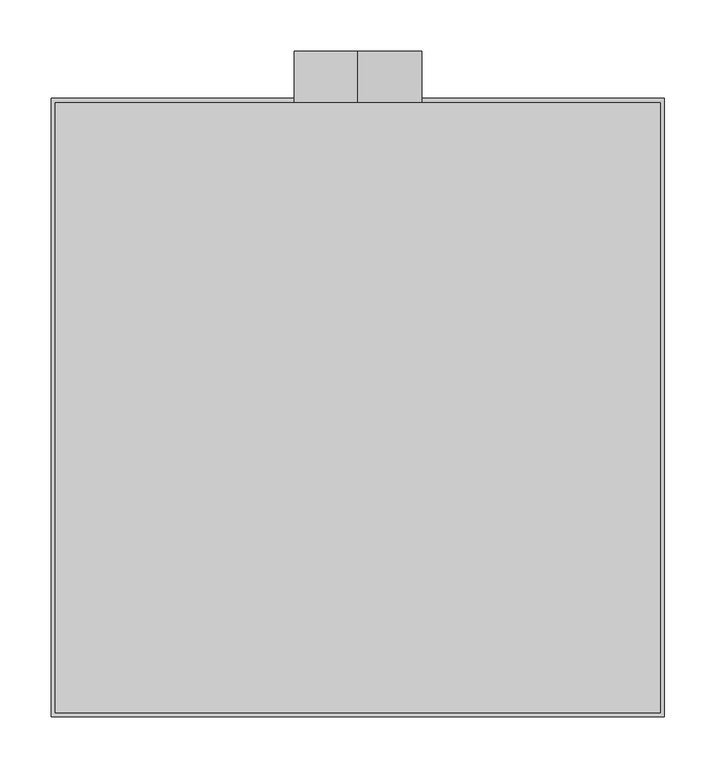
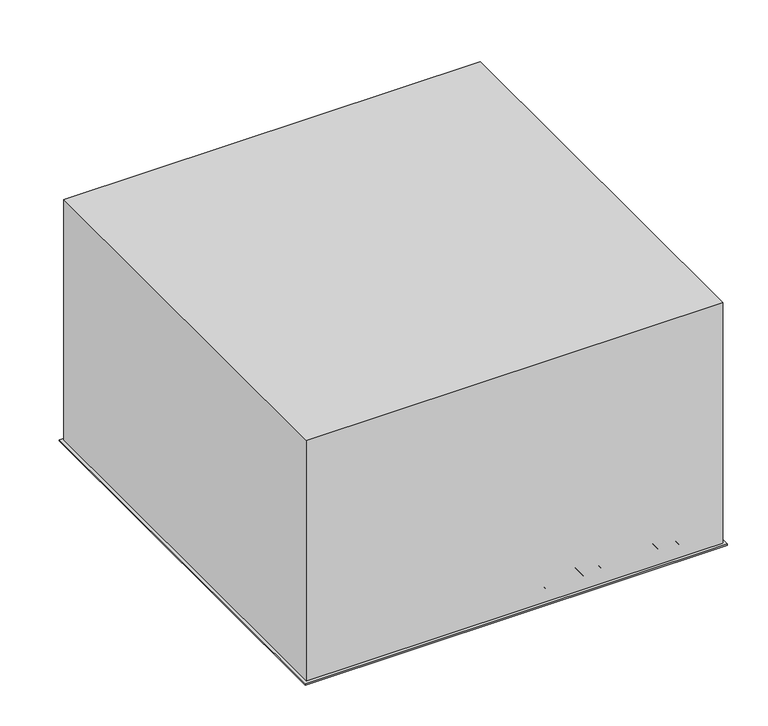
"""IFC4 building model written with IfcOpenShell, lengths in millimetres: air terminal geometry, EOL - plafonnier : EOL-P2-125-600x600."""

from ifc_helpers import new_model, si_unit, point, frame, frame_2d, origin, place, context, project, spatial, polyline, circle_curve, trimmed, segment, composite_curve, outline, extrude, source, transform, mapped, element, save
from ifc_brep_helpers import plane_surface, revolved_surface, advanced_brep


def air_terminal_11f47abf(model_context):
    return source(origin(), model_context, "Body", "SolidModel", [
        extrude(outline(composite_curve([segment(polyline([(1.0, 69.6874144), (2.0025269, 69.6874144)]), True, "CONTINUOUS"), segment(trimmed(circle_curve(frame_2d((31.0266548, 71.7874144)), 29.1), [point((2.0025269, 69.6874144))], [point((26.77286, 43.0))], True, "CARTESIAN"), True, "CONTINUOUS"), segment(polyline([(26.77286, 43.0), (35.0, 43.0), (35.0, 42.0), (26.7, 42.0)]), True, "CONTINUOUS"), segment(trimmed(circle_curve(frame_2d((31.0266548, 71.7874144)), 30.1), [point((26.7, 42.0))], [point((1.0, 69.6874144))], False, "CARTESIAN"), True, "CONTINUOUS")], self_intersect=False)), frame((0.0, 6.1874144, 0.0), z_axis=(0.0, 1.0, 0.0), x_axis=(0.0, 0.0, 1.0)), (0.0, 0.0, 1.0), 572.6251712),
        extrude(outline(composite_curve([segment(polyline([(1.0, 96.6874144), (2.0025269, 96.6874144)]), True, "CONTINUOUS"), segment(trimmed(circle_curve(frame_2d((31.0266548, 98.7874144)), 29.1), [point((2.0025269, 96.6874144))], [point((26.77286, 70.0))], True, "CARTESIAN"), True, "CONTINUOUS"), segment(polyline([(26.77286, 70.0), (35.0, 70.0), (35.0, 69.0), (26.7, 69.0)]), True, "CONTINUOUS"), segment(trimmed(circle_curve(frame_2d((31.0266548, 98.7874144)), 30.1), [point((26.7, 69.0))], [point((1.0, 96.6874144))], False, "CARTESIAN"), True, "CONTINUOUS")], self_intersect=False)), frame((0.0, 6.1874144, 0.0), z_axis=(0.0, 1.0, 0.0), x_axis=(0.0, 0.0, 1.0)), (0.0, 0.0, 1.0), 572.6251712),
        extrude(outline(composite_curve([segment(polyline([(1.0, 123.6874144), (2.0025269, 123.6874144)]), True, "CONTINUOUS"), segment(trimmed(circle_curve(frame_2d((31.0266548, 125.7874144)), 29.1), [point((2.0025269, 123.6874144))], [point((26.77286, 97.0))], True, "CARTESIAN"), True, "CONTINUOUS"), segment(polyline([(26.77286, 97.0), (35.0, 97.0), (35.0, 96.0), (26.7, 96.0)]), True, "CONTINUOUS"), segment(trimmed(circle_curve(frame_2d((31.0266548, 125.7874144)), 30.1), [point((26.7, 96.0))], [point((1.0, 123.6874144))], False, "CARTESIAN"), True, "CONTINUOUS")], self_intersect=False)), frame((0.0, 6.1874144, 0.0), z_axis=(0.0, 1.0, 0.0), x_axis=(0.0, 0.0, 1.0)), (0.0, 0.0, 1.0), 572.6251712),
        extrude(outline(composite_curve([segment(polyline([(1.0, 150.6874144), (2.0025269, 150.6874144)]), True, "CONTINUOUS"), segment(trimmed(circle_curve(frame_2d((31.0266548, 152.7874144)), 29.1), [point((2.0025269, 150.6874144))], [point((26.77286, 124.0))], True, "CARTESIAN"), True, "CONTINUOUS"), segment(polyline([(26.77286, 124.0), (35.0, 124.0), (35.0, 123.0), (26.7, 123.0)]), True, "CONTINUOUS"), segment(trimmed(circle_curve(frame_2d((31.0266548, 152.7874144)), 30.1), [point((26.7, 123.0))], [point((1.0, 150.6874144))], False, "CARTESIAN"), True, "CONTINUOUS")], self_intersect=False)), frame((0.0, 6.1874144, 0.0), z_axis=(0.0, 1.0, 0.0), x_axis=(0.0, 0.0, 1.0)), (0.0, 0.0, 1.0), 572.6251712),
        extrude(outline(composite_curve([segment(polyline([(1.0, 177.6874144), (2.0025269, 177.6874144)]), True, "CONTINUOUS"), segment(trimmed(circle_curve(frame_2d((31.0266548, 179.7874144)), 29.1), [point((2.0025269, 177.6874144))], [point((26.77286, 151.0))], True, "CARTESIAN"), True, "CONTINUOUS"), segment(polyline([(26.77286, 151.0), (35.0, 151.0), (35.0, 150.0), (26.7, 150.0)]), True, "CONTINUOUS"), segment(trimmed(circle_curve(frame_2d((31.0266548, 179.7874144)), 30.1), [point((26.7, 150.0))], [point((1.0, 177.6874144))], False, "CARTESIAN"), True, "CONTINUOUS")], self_intersect=False)), frame((0.0, 6.1874144, 0.0), z_axis=(0.0, 1.0, 0.0), x_axis=(0.0, 0.0, 1.0)), (0.0, 0.0, 1.0), 572.6251712),
        extrude(outline(composite_curve([segment(polyline([(1.0, 204.6874144), (2.0025269, 204.6874144)]), True, "CONTINUOUS"), segment(trimmed(circle_curve(frame_2d((31.0266548, 206.7874144)), 29.1), [point((2.0025269, 204.6874144))], [point((26.77286, 178.0))], True, "CARTESIAN"), True, "CONTINUOUS"), segment(polyline([(26.77286, 178.0), (35.0, 178.0), (35.0, 177.0), (26.7, 177.0)]), True, "CONTINUOUS"), segment(trimmed(circle_curve(frame_2d((31.0266548, 206.7874144)), 30.1), [point((26.7, 177.0))], [point((1.0, 204.6874144))], False, "CARTESIAN"), True, "CONTINUOUS")], self_intersect=False)), frame((0.0, 6.1874144, 0.0), z_axis=(0.0, 1.0, 0.0), x_axis=(0.0, 0.0, 1.0)), (0.0, 0.0, 1.0), 572.6251712),
        extrude(outline(composite_curve([segment(polyline([(1.0, 231.6874144), (2.0025269, 231.6874144)]), True, "CONTINUOUS"), segment(trimmed(circle_curve(frame_2d((31.0266548, 233.7874144)), 29.1), [point((2.0025269, 231.6874144))], [point((26.77286, 205.0))], True, "CARTESIAN"), True, "CONTINUOUS"), segment(polyline([(26.77286, 205.0), (35.0, 205.0), (35.0, 204.0), (26.7, 204.0)]), True, "CONTINUOUS"), segment(trimmed(circle_curve(frame_2d((31.0266548, 233.7874144)), 30.1), [point((26.7, 204.0))], [point((1.0, 231.6874144))], False, "CARTESIAN"), True, "CONTINUOUS")], self_intersect=False)), frame((0.0, 6.1874144, 0.0), z_axis=(0.0, 1.0, 0.0), x_axis=(0.0, 0.0, 1.0)), (0.0, 0.0, 1.0), 572.6251712),
        extrude(outline(composite_curve([segment(polyline([(1.0, 258.6874144), (2.0025269, 258.6874144)]), True, "CONTINUOUS"), segment(trimmed(circle_curve(frame_2d((31.0266548, 260.7874144)), 29.1), [point((2.0025269, 258.6874144))], [point((26.77286, 232.0))], True, "CARTESIAN"), True, "CONTINUOUS"), segment(polyline([(26.77286, 232.0), (35.0, 232.0), (35.0, 231.0), (26.7, 231.0)]), True, "CONTINUOUS"), segment(trimmed(circle_curve(frame_2d((31.0266548, 260.7874144)), 30.1), [point((26.7, 231.0))], [point((1.0, 258.6874144))], False, "CARTESIAN"), True, "CONTINUOUS")], self_intersect=False)), frame((0.0, 6.1874144, 0.0), z_axis=(0.0, 1.0, 0.0), x_axis=(0.0, 0.0, 1.0)), (0.0, 0.0, 1.0), 572.6251712),
        extrude(outline(composite_curve([segment(polyline([(1.0, 285.6874144), (2.0025269, 285.6874144)]), True, "CONTINUOUS"), segment(trimmed(circle_curve(frame_2d((31.0266548, 287.7874144)), 29.1), [point((2.0025269, 285.6874144))], [point((26.77286, 259.0))], True, "CARTESIAN"), True, "CONTINUOUS"), segment(polyline([(26.77286, 259.0), (35.0, 259.0), (35.0, 258.0), (26.7, 258.0)]), True, "CONTINUOUS"), segment(trimmed(circle_curve(frame_2d((31.0266548, 287.7874144)), 30.1), [point((26.7, 258.0))], [point((1.0, 285.6874144))], False, "CARTESIAN"), True, "CONTINUOUS")], self_intersect=False)), frame((0.0, 6.1874144, 0.0), z_axis=(0.0, 1.0, 0.0), x_axis=(0.0, 0.0, 1.0)), (0.0, 0.0, 1.0), 572.6251712),
        extrude(outline(composite_curve([segment(trimmed(circle_curve(frame_2d((31.0266548, -71.7874144)), 30.1), [point((1.0, -69.6874144))], [point((26.7, -42.0))], False, "CARTESIAN"), True, "CONTINUOUS"), segment(polyline([(26.7, -42.0), (35.0, -42.0), (35.0, -43.0), (26.77286, -43.0)]), True, "CONTINUOUS"), segment(trimmed(circle_curve(frame_2d((31.0266548, -71.7874144)), 29.1), [point((26.77286, -43.0))], [point((2.0025269, -69.6874144))], True, "CARTESIAN"), True, "CONTINUOUS"), segment(polyline([(2.0025269, -69.6874144), (1.0, -69.6874144)]), True, "CONTINUOUS")], self_intersect=False)), frame((0.0, 6.1874144, 0.0), z_axis=(0.0, 1.0, 0.0), x_axis=(0.0, 0.0, 1.0)), (0.0, 0.0, 1.0), 572.6251712),
        extrude(outline(composite_curve([segment(trimmed(circle_curve(frame_2d((31.0266548, -98.7874144)), 30.1), [point((1.0, -96.6874144))], [point((26.7, -69.0))], False, "CARTESIAN"), True, "CONTINUOUS"), segment(polyline([(26.7, -69.0), (35.0, -69.0), (35.0, -70.0), (26.77286, -70.0)]), True, "CONTINUOUS"), segment(trimmed(circle_curve(frame_2d((31.0266548, -98.7874144)), 29.1), [point((26.77286, -70.0))], [point((2.0025269, -96.6874144))], True, "CARTESIAN"), True, "CONTINUOUS"), segment(polyline([(2.0025269, -96.6874144), (1.0, -96.6874144)]), True, "CONTINUOUS")], self_intersect=False)), frame((0.0, 6.1874144, 0.0), z_axis=(0.0, 1.0, 0.0), x_axis=(0.0, 0.0, 1.0)), (0.0, 0.0, 1.0), 572.6251712),
        extrude(outline(composite_curve([segment(trimmed(circle_curve(frame_2d((31.0266548, -125.7874144)), 30.1), [point((1.0, -123.6874144))], [point((26.7, -96.0))], False, "CARTESIAN"), True, "CONTINUOUS"), segment(polyline([(26.7, -96.0), (35.0, -96.0), (35.0, -97.0), (26.77286, -97.0)]), True, "CONTINUOUS"), segment(trimmed(circle_curve(frame_2d((31.0266548, -125.7874144)), 29.1), [point((26.77286, -97.0))], [point((2.0025269, -123.6874144))], True, "CARTESIAN"), True, "CONTINUOUS"), segment(polyline([(2.0025269, -123.6874144), (1.0, -123.6874144)]), True, "CONTINUOUS")], self_intersect=False)), frame((0.0, 6.1874144, 0.0), z_axis=(0.0, 1.0, 0.0), x_axis=(0.0, 0.0, 1.0)), (0.0, 0.0, 1.0), 572.6251712),
        extrude(outline(composite_curve([segment(trimmed(circle_curve(frame_2d((31.0266548, -152.7874144)), 30.1), [point((1.0, -150.6874144))], [point((26.7, -123.0))], False, "CARTESIAN"), True, "CONTINUOUS"), segment(polyline([(26.7, -123.0), (35.0, -123.0), (35.0, -124.0), (26.77286, -124.0)]), True, "CONTINUOUS"), segment(trimmed(circle_curve(frame_2d((31.0266548, -152.7874144)), 29.1), [point((26.77286, -124.0))], [point((2.0025269, -150.6874144))], True, "CARTESIAN"), True, "CONTINUOUS"), segment(polyline([(2.0025269, -150.6874144), (1.0, -150.6874144)]), True, "CONTINUOUS")], self_intersect=False)), frame((0.0, 6.1874144, 0.0), z_axis=(0.0, 1.0, 0.0), x_axis=(0.0, 0.0, 1.0)), (0.0, 0.0, 1.0), 572.6251712),
        extrude(outline(composite_curve([segment(trimmed(circle_curve(frame_2d((31.0266548, -179.7874144)), 30.1), [point((1.0, -177.6874144))], [point((26.7, -150.0))], False, "CARTESIAN"), True, "CONTINUOUS"), segment(polyline([(26.7, -150.0), (35.0, -150.0), (35.0, -151.0), (26.77286, -151.0)]), True, "CONTINUOUS"), segment(trimmed(circle_curve(frame_2d((31.0266548, -179.7874144)), 29.1), [point((26.77286, -151.0))], [point((2.0025269, -177.6874144))], True, "CARTESIAN"), True, "CONTINUOUS"), segment(polyline([(2.0025269, -177.6874144), (1.0, -177.6874144)]), True, "CONTINUOUS")], self_intersect=False)), frame((0.0, 6.1874144, 0.0), z_axis=(0.0, 1.0, 0.0), x_axis=(0.0, 0.0, 1.0)), (0.0, 0.0, 1.0), 572.6251712),
        extrude(outline(composite_curve([segment(trimmed(circle_curve(frame_2d((31.0266548, -206.7874144)), 30.1), [point((1.0, -204.6874144))], [point((26.7, -177.0))], False, "CARTESIAN"), True, "CONTINUOUS"), segment(polyline([(26.7, -177.0), (35.0, -177.0), (35.0, -178.0), (26.77286, -178.0)]), True, "CONTINUOUS"), segment(trimmed(circle_curve(frame_2d((31.0266548, -206.7874144)), 29.1), [point((26.77286, -178.0))], [point((2.0025269, -204.6874144))], True, "CARTESIAN"), True, "CONTINUOUS"), segment(polyline([(2.0025269, -204.6874144), (1.0, -204.6874144)]), True, "CONTINUOUS")], self_intersect=False)), frame((0.0, 6.1874144, 0.0), z_axis=(0.0, 1.0, 0.0), x_axis=(0.0, 0.0, 1.0)), (0.0, 0.0, 1.0), 572.6251712),
        extrude(outline(composite_curve([segment(trimmed(circle_curve(frame_2d((31.0266548, -233.7874144)), 30.1), [point((1.0, -231.6874144))], [point((26.7, -204.0))], False, "CARTESIAN"), True, "CONTINUOUS"), segment(polyline([(26.7, -204.0), (35.0, -204.0), (35.0, -205.0), (26.77286, -205.0)]), True, "CONTINUOUS"), segment(trimmed(circle_curve(frame_2d((31.0266548, -233.7874144)), 29.1), [point((26.77286, -205.0))], [point((2.0025269, -231.6874144))], True, "CARTESIAN"), True, "CONTINUOUS"), segment(polyline([(2.0025269, -231.6874144), (1.0, -231.6874144)]), True, "CONTINUOUS")], self_intersect=False)), frame((0.0, 6.1874144, 0.0), z_axis=(0.0, 1.0, 0.0), x_axis=(0.0, 0.0, 1.0)), (0.0, 0.0, 1.0), 572.6251712),
        extrude(outline(composite_curve([segment(trimmed(circle_curve(frame_2d((31.0266548, -260.7874144)), 30.1), [point((1.0, -258.6874144))], [point((26.7, -231.0))], False, "CARTESIAN"), True, "CONTINUOUS"), segment(polyline([(26.7, -231.0), (35.0, -231.0), (35.0, -232.0), (26.77286, -232.0)]), True, "CONTINUOUS"), segment(trimmed(circle_curve(frame_2d((31.0266548, -260.7874144)), 29.1), [point((26.77286, -232.0))], [point((2.0025269, -258.6874144))], True, "CARTESIAN"), True, "CONTINUOUS"), segment(polyline([(2.0025269, -258.6874144), (1.0, -258.6874144)]), True, "CONTINUOUS")], self_intersect=False)), frame((0.0, 6.1874144, 0.0), z_axis=(0.0, 1.0, 0.0), x_axis=(0.0, 0.0, 1.0)), (0.0, 0.0, 1.0), 572.6251712),
        extrude(outline(polyline([(42.0, 578.8125856), (42.0, 6.1874144), (-42.0, 6.1874144), (-42.0, 578.8125856), (42.0, 578.8125856)])), frame((0.0, 0.0, 1.0), z_axis=(0.0, 0.0, 1.0), x_axis=(1.0, 0.0, 0.0)), (0.0, 0.0, 1.0), 1.0025269),
        extrude(outline(composite_curve([segment(trimmed(circle_curve(frame_2d((31.0266548, -287.7874144)), 30.1), [point((1.0, -285.6874144))], [point((26.7, -258.0))], False, "CARTESIAN"), True, "CONTINUOUS"), segment(polyline([(26.7, -258.0), (35.0, -258.0), (35.0, -259.0), (26.77286, -259.0)]), True, "CONTINUOUS"), segment(trimmed(circle_curve(frame_2d((31.0266548, -287.7874144)), 29.1), [point((26.77286, -259.0))], [point((2.0025269, -285.6874144))], True, "CARTESIAN"), True, "CONTINUOUS"), segment(polyline([(2.0025269, -285.6874144), (1.0, -285.6874144)]), True, "CONTINUOUS")], self_intersect=False)), frame((0.0, 6.1874144, 0.0), z_axis=(0.0, 1.0, 0.0), x_axis=(0.0, 0.0, 1.0)), (0.0, 0.0, 1.0), 572.6251712),
        extrude(outline(polyline([(299.0, 594.0), (299.0, -9.0), (-299.0, -9.0), (-299.0, 594.0), (299.0, 594.0)]), holes=[polyline([(290.0, 585.0), (-290.0, 585.0), (-290.0, 0.0), (290.0, 0.0), (290.0, 585.0)])]), frame((0.0, 0.0, -2.0), z_axis=(0.0, 0.0, 1.0), x_axis=(1.0, 0.0, 0.0)), (0.0, 0.0, 1.0), 2.0),
        extrude(outline(composite_curve([segment(trimmed(circle_curve(frame_2d((241.0, 0.0)), 62.5), [point((178.5, 0.0))], [point((303.5, 0.0))], False, "CARTESIAN"), True, "CONTINUOUS"), segment(trimmed(circle_curve(frame_2d((241.0, 0.0)), 62.5), [point((303.5, 0.0))], [point((178.5, 0.0))], False, "CARTESIAN"), True, "CONTINUOUS")], self_intersect=False), holes=[composite_curve([segment(trimmed(circle_curve(frame_2d((241.0, 0.0)), 61.5), [point((241.0, 61.5))], [point((241.0, -61.5))], True, "CARTESIAN"), True, "CONTINUOUS"), segment(trimmed(circle_curve(frame_2d((241.0, 0.0)), 61.5), [point((241.0, -61.5))], [point((241.0, 61.5))], True, "CARTESIAN"), True, "CONTINUOUS")], self_intersect=False)]), frame((0.0, 590.0, 0.0), z_axis=(0.0, 1.0, 0.0), x_axis=(0.0, 0.0, 1.0)), (0.0, 0.0, 1.0), 50.0),
        advanced_brep(
        [(295.0, 590.0, 361.0), (-295.0, 590.0, 361.0), (-295.0, -5.0, 361.0), (295.0, -5.0, 361.0), (295.0, 590.0, 0.0), (295.0, -5.0, 0.0), (-295.0, -5.0, 0.0), (-295.0, 590.0, 0.0), (290.0, 585.0, 0.0), (-290.0, 585.0, 0.0), (-290.0, 0.0, 0.0), (290.0, 0.0, 0.0), (-61.5, 590.0, 241.0), (61.5, 590.0, 241.0), (290.0, 585.0, 356.0), (290.0, 0.0, 356.0), (-290.0, 0.0, 356.0), (-290.0, 585.0, 356.0), (61.5, 585.0, 241.0), (-61.5, 585.0, 241.0)],
        [
            (0, 1),
            (1, 2),
            (2, 3),
            (3, 0),
            (4, 5),
            (5, 6),
            (6, 7),
            (7, 4),
            (8, 9),
            (9, 10),
            (10, 11),
            (11, 8),
            (0, 4),
            (7, 1),
            (12, 13, circle_curve(frame((0.0, 590.0, 241.0), z_axis=(0.0, -1.0, 0.0), x_axis=(1.0, 0.0, 0.0)), 61.5)),
            (13, 12, circle_curve(frame((0.0, 590.0, 241.0), z_axis=(0.0, -1.0, 0.0), x_axis=(1.0, 0.0, 0.0)), 61.5)),
            (6, 2),
            (5, 3),
            (14, 15),
            (15, 16),
            (16, 17),
            (17, 14),
            (17, 9),
            (8, 14),
            (18, 19, circle_curve(frame((0.0, 585.0, 241.0), z_axis=(0.0, 1.0, 0.0), x_axis=(1.0, 0.0, 0.0)), 61.5)),
            (19, 18, circle_curve(frame((0.0, 585.0, 241.0), z_axis=(0.0, 1.0, 0.0), x_axis=(1.0, 0.0, 0.0)), 61.5)),
            (16, 10),
            (15, 11),
            (12, 19),
            (18, 13),
        ],
        [
            plane_surface(frame((-295.0, 590.0, 361.0), z_axis=(0.0, 0.0, 1.0), x_axis=(-1.0, 0.0, 0.0))),
            plane_surface(frame((-295.0, 590.0, 0.0), z_axis=(0.0, 0.0, -1.0), x_axis=(1.0, 0.0, 0.0))),
            plane_surface(frame((295.0, 590.0, 361.0), z_axis=(0.0, 1.0, 0.0), x_axis=(0.0, 0.0, -1.0))),
            plane_surface(frame((-295.0, 590.0, 361.0), z_axis=(-1.0, 0.0, 0.0), x_axis=(0.0, 0.0, -1.0))),
            plane_surface(frame((-295.0, -5.0, 361.0), z_axis=(0.0, -1.0, 0.0), x_axis=(0.0, 0.0, -1.0))),
            plane_surface(frame((295.0, -5.0, 361.0), z_axis=(1.0, 0.0, 0.0), x_axis=(0.0, 0.0, -1.0))),
            plane_surface(frame((-290.0, 585.0, 356.0), z_axis=(0.0, 0.0, -1.0), x_axis=(-1.0, 0.0, 0.0))),
            plane_surface(frame((290.0, 585.0, 356.0), z_axis=(0.0, -1.0, 0.0), x_axis=(0.0, 0.0, -1.0))),
            plane_surface(frame((-290.0, 585.0, 356.0), z_axis=(1.0, 0.0, 0.0), x_axis=(0.0, 0.0, -1.0))),
            plane_surface(frame((-290.0, 0.0, 356.0), z_axis=(0.0, 1.0, 0.0), x_axis=(0.0, 0.0, -1.0))),
            plane_surface(frame((290.0, 0.0, 356.0), z_axis=(-1.0, 0.0, 0.0), x_axis=(0.0, 0.0, -1.0))),
            revolved_surface(polyline([(61.5, 585.0, 241.0), (61.5, 590.0, 241.0)]), (0.0, 640.0, 241.0), (0.0, -1.0, 0.0)),
        ],
        [
            (0, [[1, 2, 3, 4]]),
            (1, [[5, 6, 7, 8], [9, 10, 11, 12]]),
            (2, [[-1, 13, -8, 14], [15, 16]]),
            (3, [[-2, -14, -7, 17]]),
            (4, [[-3, -17, -6, 18]]),
            (5, [[-4, -18, -5, -13]]),
            (6, [[19, 20, 21, 22]]),
            (7, [[-22, 23, -9, 24], [25, 26]]),
            (8, [[-21, 27, -10, -23]]),
            (9, [[-20, 28, -11, -27]]),
            (10, [[-19, -24, -12, -28]]),
            (11, [[29, -25, 30, -15]]),
            (11, [[-29, -16, -30, -26]]),
        ],
    ),
    ])


if __name__ == "__main__":
    model = new_model("IFC4")
    model_context = context("Model", 3, world=origin())
    ifc_project = project(units=[si_unit("LENGTHUNIT", "METRE", prefix="MILLI")], contexts=[model_context])
    site = spatial("IfcSite", under=ifc_project)
    building = spatial("IfcBuilding", under=site)
    placement = place(None, origin())
    air_terminal_shape = air_terminal_11f47abf(model_context)
    element("IfcAirTerminal", 1, ObjectType="EOL - plafonnier : EOL-P2-125-600x600", at=placement, inside=building, context=model_context, shape_type="MappedRepresentation", body=[
        mapped(air_terminal_shape, transform((0.0, 0.0, 0.0), x_axis=(1.0, 0.0, 0.0), y_axis=(0.0, 1.0, 0.0), z_axis=(0.0, 0.0, 1.0))),
    ])
    save(model, "model.ifc")
